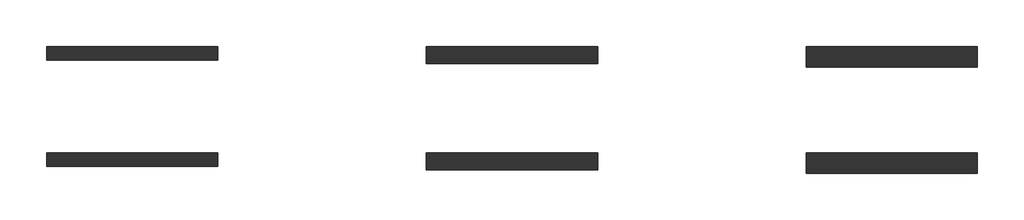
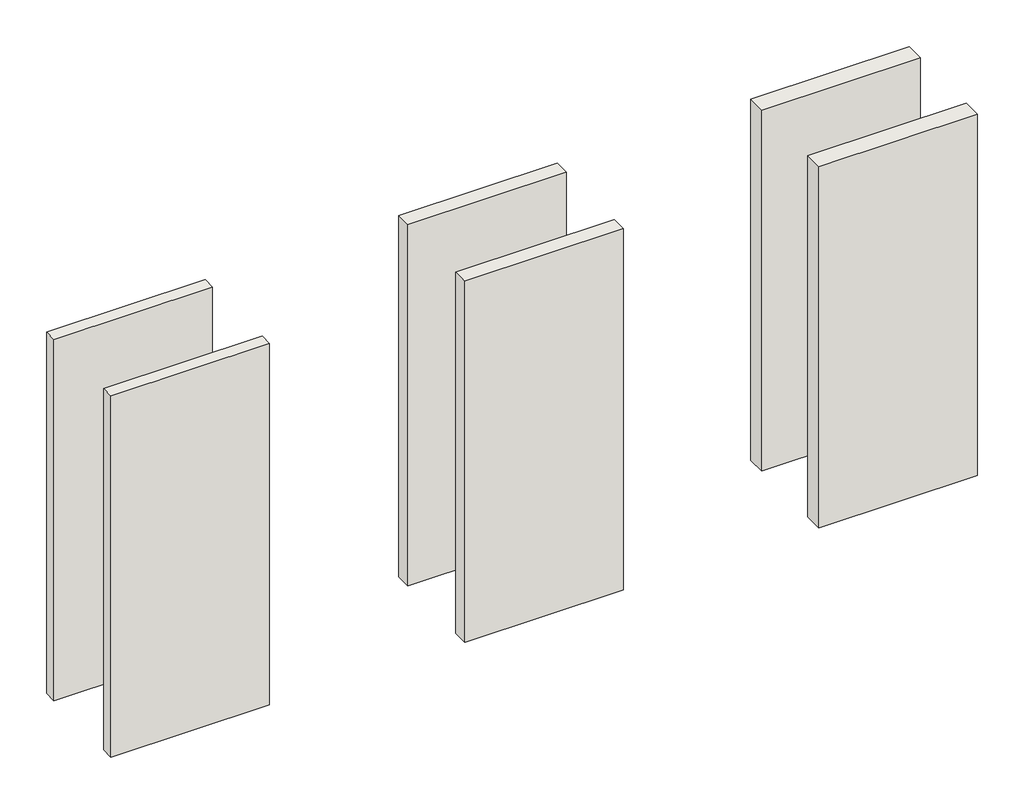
# One storey: 6 walls.
"""IFC4 building model written with IfcOpenShell, lengths in millimetres."""

import ifcopenshell
import ifcopenshell.guid

model = None  # the IFC model being written
_history = None  # IfcOwnerHistory: only IFC2X3 demands one
_inside = {}  # id of a spatial element -> (the spatial element, [elements in it])
_under = {}  # id of a project, library or spatial element -> (it, [spatial elements below it])
_declared = {}  # id of a project -> (the project, [libraries it declares])
_typed = {}  # id of a type object -> (the type object, [elements of that type])
_made_of = {}  # id of a material, layer set ... -> (it, [elements and type objects made of it])


def new_model(schema):
    """Start an empty IFC model of exactly this schema.

    Asked for "IFC4X3", IfcOpenShell would pick the latest addendum, in which some entities
    have other attributes; the version numbers below select the first issue.
    IFC2X3 requires an IfcOwnerHistory on every rooted entity: one is made here for all.
    """
    global model, _history
    if schema == "IFC4X3":
        model = ifcopenshell.file(schema_version=(4, 3, 0, 0))
    else:
        model = ifcopenshell.file(schema=schema)
    _inside.clear()
    _under.clear()
    _declared.clear()
    _typed.clear()
    _made_of.clear()
    _history = None
    if model.schema == "IFC2X3":
        org = make("IfcOrganization", Name="unknown")
        user = make(
            "IfcPersonAndOrganization",
            ThePerson=make("IfcPerson", FamilyName="unknown"),
            TheOrganization=org,
        )
        app = make(
            "IfcApplication",
            ApplicationDeveloper=org,
            Version="unknown",
            ApplicationFullName="unknown",
            ApplicationIdentifier="unknown",
        )
        _history = make(
            "IfcOwnerHistory",
            OwningUser=user,
            OwningApplication=app,
            ChangeAction="ADDED",
            CreationDate=0,
        )
    return model


def make(cls, **values):
    """One entity of the class cls with the attributes given. An attribute that is None is left unset."""
    return model.create_entity(
        cls, **{name: value for name, value in values.items() if value is not None}
    )


def rooted(cls, **values):
    """An entity with a GlobalId (a new one), such as an element, a storey or a relation."""
    return make(cls, GlobalId=ifcopenshell.guid.new(), OwnerHistory=_history, **values)


def si_unit(unit_type, name, prefix=None):
    """IfcSIUnit, for example si_unit("LENGTHUNIT", "METRE", prefix="MILLI")."""
    return make("IfcSIUnit", UnitType=unit_type, Prefix=prefix, Name=name)


def assignment(units):
    """IfcUnitAssignment: the units of a project."""
    return None if units is None else make("IfcUnitAssignment", Units=units)


def point(xyz):
    """IfcCartesianPoint."""
    return None if xyz is None else make("IfcCartesianPoint", Coordinates=xyz)


def direction(xyz):
    """IfcDirection."""
    return None if xyz is None else make("IfcDirection", DirectionRatios=xyz)


def frame(location, z_axis=None, x_axis=None):
    """IfcAxis2Placement3D, a coordinate frame: its origin and axes. An axis left out is left unset."""
    return make(
        "IfcAxis2Placement3D",
        Location=point(location),
        Axis=direction(z_axis),
        RefDirection=direction(x_axis),
    )


def origin():
    """The frame at (0, 0, 0) with its axes left unset."""
    return frame((0.0, 0.0, 0.0))


def origin_with_axes():
    """The frame at (0, 0, 0) with the z axis (0, 0, 1) and the x axis (1, 0, 0) written out."""
    return frame((0.0, 0.0, 0.0), z_axis=(0.0, 0.0, 1.0), x_axis=(1.0, 0.0, 0.0))


def place(relative_to, where):
    """IfcLocalPlacement: puts the frame where relative to a parent placement (None: the world)."""
    return make(
        "IfcLocalPlacement", PlacementRelTo=relative_to, RelativePlacement=where
    )


def context(
    kind, dimensions, precision=None, world=None, true_north=None, identifier=None
):
    """IfcGeometricRepresentationContext, for example the 3D "Model" context."""
    return make(
        "IfcGeometricRepresentationContext",
        ContextIdentifier=identifier,
        ContextType=kind,
        CoordinateSpaceDimension=dimensions,
        Precision=precision,
        WorldCoordinateSystem=world,
        TrueNorth=true_north,
    )


def project(units=None, contexts=None):
    """IfcProject with its units and contexts."""
    return rooted(
        "IfcProject",
        Name="project",
        RepresentationContexts=contexts,
        UnitsInContext=assignment(units),
    )


def spatial(cls, under=None, at=None, **own):
    """A site, building, storey or space (cls), placed at a placement, below another one or the project."""
    s = rooted(cls, ObjectPlacement=at, **own)
    if under is not None:
        _under.setdefault(under.id(), (under, []))[1].append(s)
    return s


def polyline(points):
    """IfcPolyline through the points."""
    return make("IfcPolyline", Points=[point(p) for p in points])


def outline(outer, holes=None, kind="AREA"):
    """IfcArbitraryClosedProfileDef: a profile drawn as a closed curve; with holes, ...WithVoids."""
    if holes is None:
        return make("IfcArbitraryClosedProfileDef", ProfileType=kind, OuterCurve=outer)
    return make(
        "IfcArbitraryProfileDefWithVoids",
        ProfileType=kind,
        OuterCurve=outer,
        InnerCurves=holes,
    )


def extrude(swept, where, along, depth):
    """IfcExtrudedAreaSolid: the profile swept, set in the frame where, extruded along a direction by depth."""
    return make(
        "IfcExtrudedAreaSolid",
        SweptArea=swept,
        Position=where,
        ExtrudedDirection=direction(along),
        Depth=depth,
    )


def shape(context_of_items, identifier, shape_type, items):
    """IfcShapeRepresentation: the items that make up one representation, for example the "Body"."""
    return make(
        "IfcShapeRepresentation",
        ContextOfItems=context_of_items,
        RepresentationIdentifier=identifier,
        RepresentationType=shape_type,
        Items=items,
    )


def made_of(thing, what):
    """Note that an element or type object is made of a material, layer set ...; save() writes the relation."""
    if what is not None:
        _made_of.setdefault(what.id(), (what, []))[1].append(thing)
    return thing


def element(
    cls,
    number,
    at=None,
    inside=None,
    cuts=None,
    type_object=None,
    material=None,
    context=None,
    identifier="Body",
    shape_type=None,
    held_by="IfcProductDefinitionShape",
    body=None,
    shapes=None,
    **own,
):
    """One element of the class cls, such as IfcWall. Its Tag is "e" and its number.

    at: its placement. inside: the storey or other place that contains it. cuts: it is an
    opening in that element (IfcRelVoidsElement). A single representation is given by context,
    identifier, shape_type and body (its items); several are given by shapes. held_by: the class
    of the entity that holds the representations. save() writes the other relations.
    """
    e = rooted(cls, Tag="e%d" % number, ObjectPlacement=at, **own)
    if body is not None:
        shapes = [shape(context, identifier, shape_type, body)]
    if shapes is not None:
        e.Representation = make(held_by, Representations=shapes)
    if inside is not None:
        _inside.setdefault(inside.id(), (inside, []))[1].append(e)
    if cuts is not None:
        rooted(
            "IfcRelVoidsElement", RelatingBuildingElement=cuts, RelatedOpeningElement=e
        )
    if type_object is not None:
        _typed.setdefault(type_object.id(), (type_object, []))[1].append(e)
    return made_of(e, material)


def aggregate(whole, parts):
    """IfcRelAggregates: a whole, such as a stair, and the parts it consists of."""
    return rooted("IfcRelAggregates", RelatingObject=whole, RelatedObjects=parts)


def save(model, path):
    """Write the relations noted so far, then the file.

    IfcRelAggregates (storeys below a building ...), IfcRelContainedInSpatialStructure (elements
    in a storey), IfcRelDefinesByType, IfcRelAssociatesMaterial and IfcRelDeclares: one each for
    every whole, place, type object, material and project.
    """
    for whole, parts in _under.values():
        aggregate(whole, parts)
    for where, things in _inside.values():
        rooted(
            "IfcRelContainedInSpatialStructure",
            RelatedElements=things,
            RelatingStructure=where,
        )
    for kind, things in _typed.values():
        rooted("IfcRelDefinesByType", RelatedObjects=things, RelatingType=kind)
    for what, things in _made_of.values():
        rooted("IfcRelAssociatesMaterial", RelatedObjects=things, RelatingMaterial=what)
    for by, libraries in _declared.values():
        rooted("IfcRelDeclares", RelatingContext=by, RelatedDefinitions=libraries)
    model.write(path)


model = new_model("IFC4")

# Units and contexts
model_context = context("Model", 3, world=origin())
ifc_project = project(units=[si_unit("LENGTHUNIT", "METRE", prefix="MILLI")], contexts=[model_context])

# Site, building, storey
site = spatial("IfcSite", under=ifc_project)
building = spatial("IfcBuilding", under=site)
storey = spatial("IfcBuildingStorey", under=building, Name="Уровень 1", Elevation=0.0)

# Walls
placement = place(None, origin())
element("IfcWall", 1, ObjectType="Перегородка-КНАУФ-С112-Применение внутри здания-100/50@600 ГСП-А(Н2) 12,5", at=placement, inside=storey, context=model_context, shape_type="SweptSolid", body=[
    extrude(outline(polyline([(-9315.7236634, 12796.7035262), (-10560.2640717, 12796.7035262), (-10560.2640717, 12896.7035262), (-9315.7236634, 12896.7035262), (-9315.7236634, 12796.7035262)])), origin_with_axes(), (0.0, 0.0, 1.0), 3000.0),
])
element("IfcWall", 2, ObjectType="Перегородка-КНАУФ-С112-Применение внутри здания-100/50@600 ГСП-DF(DFH2) 12,5", at=placement, inside=storey, context=model_context, shape_type="SweptSolid", body=[
    extrude(outline(polyline([(-9315.7236634, 12021.7035262), (-10560.2640717, 12021.7035262), (-10560.2640717, 12121.7035262), (-9315.7236634, 12121.7035262), (-9315.7236634, 12021.7035262)])), origin_with_axes(), (0.0, 0.0, 1.0), 3000.0),
])
element("IfcWall", 3, ObjectType="Перегородка-КНАУФ-С112-Применение внутри здания-125/75@600 ГСП-А(Н2) 12,5", at=placement, inside=storey, context=model_context, shape_type="SweptSolid", body=[
    extrude(outline(polyline([(-6551.1832552, 12771.7035262), (-7795.7236634, 12771.7035262), (-7795.7236634, 12896.7035262), (-6551.1832552, 12896.7035262), (-6551.1832552, 12771.7035262)])), origin_with_axes(), (0.0, 0.0, 1.0), 3000.0),
])
element("IfcWall", 4, ObjectType="Перегородка-КНАУФ-С112-Применение внутри здания-125/75@600 ГСП-DF(DFH2) 12,5", at=placement, inside=storey, context=model_context, shape_type="SweptSolid", body=[
    extrude(outline(polyline([(-6551.1832552, 11996.7035262), (-7795.7236634, 11996.7035262), (-7795.7236634, 12121.7035262), (-6551.1832552, 12121.7035262), (-6551.1832552, 11996.7035262)])), origin_with_axes(), (0.0, 0.0, 1.0), 3000.0),
])
element("IfcWall", 5, ObjectType="Перегородка-КНАУФ-С112-Применение внутри здания-150/100@600 ГСП-А(Н2) 12,5", at=placement, inside=storey, context=model_context, shape_type="SweptSolid", body=[
    extrude(outline(polyline([(-3786.6428469, 12746.7035262), (-5031.1832552, 12746.7035262), (-5031.1832552, 12896.7035262), (-3786.6428469, 12896.7035262), (-3786.6428469, 12746.7035262)])), origin_with_axes(), (0.0, 0.0, 1.0), 3000.0),
])
element("IfcWall", 6, ObjectType="Перегородка-КНАУФ-С112-Применение внутри здания-150/100@600 ГСП-DF(DFH2) 12,5", at=placement, inside=storey, context=model_context, shape_type="SweptSolid", body=[
    extrude(outline(polyline([(-3786.6428469, 11971.7035262), (-5031.1832552, 11971.7035262), (-5031.1832552, 12121.7035262), (-3786.6428469, 12121.7035262), (-3786.6428469, 11971.7035262)])), origin_with_axes(), (0.0, 0.0, 1.0), 3000.0),
])

save(model, "model.ifc")
